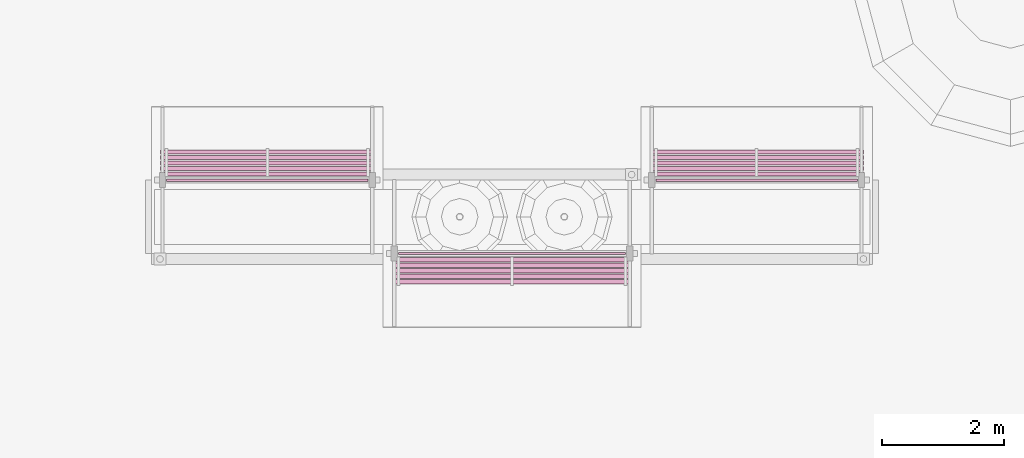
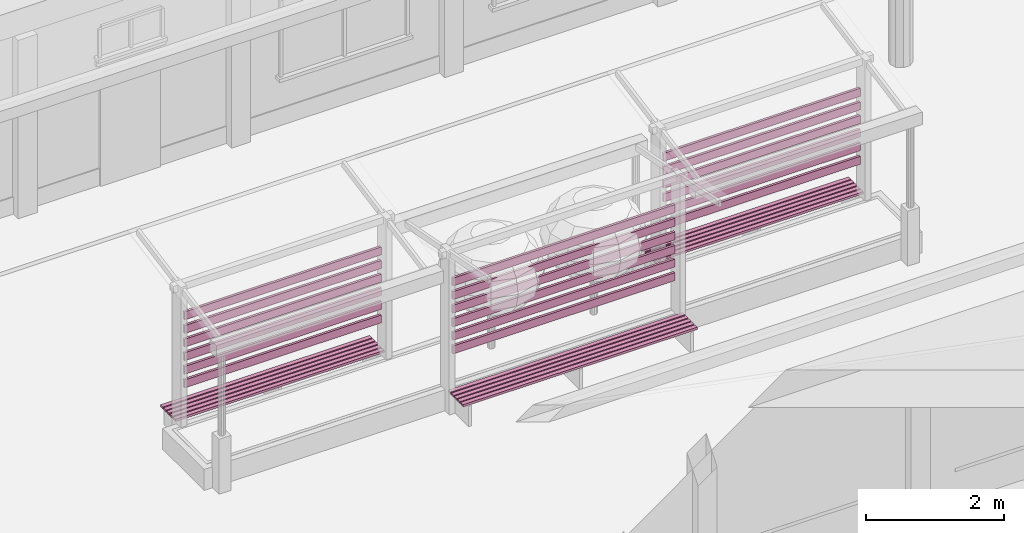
# One storey, part 148 of 177: 33 furnishings.
"""IFC4 building model written with IfcOpenShell, lengths in metres."""

import ifcopenshell
import ifcopenshell.guid

model = None  # the IFC model being written
_history = None  # IfcOwnerHistory: only IFC2X3 demands one
_inside = {}  # id of a spatial element -> (the spatial element, [elements in it])
_under = {}  # id of a project, library or spatial element -> (it, [spatial elements below it])
_declared = {}  # id of a project -> (the project, [libraries it declares])
_typed = {}  # id of a type object -> (the type object, [elements of that type])
_made_of = {}  # id of a material, layer set ... -> (it, [elements and type objects made of it])


def new_model(schema):
    """Start an empty IFC model of exactly this schema.

    Asked for "IFC4X3", IfcOpenShell would pick the latest addendum, in which some entities
    have other attributes; the version numbers below select the first issue.
    IFC2X3 requires an IfcOwnerHistory on every rooted entity: one is made here for all.
    """
    global model, _history
    if schema == "IFC4X3":
        model = ifcopenshell.file(schema_version=(4, 3, 0, 0))
    else:
        model = ifcopenshell.file(schema=schema)
    _inside.clear()
    _under.clear()
    _declared.clear()
    _typed.clear()
    _made_of.clear()
    _history = None
    if model.schema == "IFC2X3":
        org = make("IfcOrganization", Name="unknown")
        user = make(
            "IfcPersonAndOrganization",
            ThePerson=make("IfcPerson", FamilyName="unknown"),
            TheOrganization=org,
        )
        app = make(
            "IfcApplication",
            ApplicationDeveloper=org,
            Version="unknown",
            ApplicationFullName="unknown",
            ApplicationIdentifier="unknown",
        )
        _history = make(
            "IfcOwnerHistory",
            OwningUser=user,
            OwningApplication=app,
            ChangeAction="ADDED",
            CreationDate=0,
        )
    return model


def make(cls, **values):
    """One entity of the class cls with the attributes given. An attribute that is None is left unset."""
    return model.create_entity(
        cls, **{name: value for name, value in values.items() if value is not None}
    )


def rooted(cls, **values):
    """An entity with a GlobalId (a new one), such as an element, a storey or a relation."""
    return make(cls, GlobalId=ifcopenshell.guid.new(), OwnerHistory=_history, **values)


def si_unit(unit_type, name, prefix=None):
    """IfcSIUnit, for example si_unit("LENGTHUNIT", "METRE", prefix="MILLI")."""
    return make("IfcSIUnit", UnitType=unit_type, Prefix=prefix, Name=name)


def assignment(units):
    """IfcUnitAssignment: the units of a project."""
    return None if units is None else make("IfcUnitAssignment", Units=units)


def point(xyz):
    """IfcCartesianPoint."""
    return None if xyz is None else make("IfcCartesianPoint", Coordinates=xyz)


def direction(xyz):
    """IfcDirection."""
    return None if xyz is None else make("IfcDirection", DirectionRatios=xyz)


def frame(location, z_axis=None, x_axis=None):
    """IfcAxis2Placement3D, a coordinate frame: its origin and axes. An axis left out is left unset."""
    return make(
        "IfcAxis2Placement3D",
        Location=point(location),
        Axis=direction(z_axis),
        RefDirection=direction(x_axis),
    )


def origin():
    """The frame at (0, 0, 0) with its axes left unset."""
    return frame((0.0, 0.0, 0.0))


def origin_with_axes():
    """The frame at (0, 0, 0) with the z axis (0, 0, 1) and the x axis (1, 0, 0) written out."""
    return frame((0.0, 0.0, 0.0), z_axis=(0.0, 0.0, 1.0), x_axis=(1.0, 0.0, 0.0))


def place(relative_to, where):
    """IfcLocalPlacement: puts the frame where relative to a parent placement (None: the world)."""
    return make(
        "IfcLocalPlacement", PlacementRelTo=relative_to, RelativePlacement=where
    )


def context(
    kind, dimensions, precision=None, world=None, true_north=None, identifier=None
):
    """IfcGeometricRepresentationContext, for example the 3D "Model" context."""
    return make(
        "IfcGeometricRepresentationContext",
        ContextIdentifier=identifier,
        ContextType=kind,
        CoordinateSpaceDimension=dimensions,
        Precision=precision,
        WorldCoordinateSystem=world,
        TrueNorth=true_north,
    )


def subcontext(parent, identifier, kind, view, scale=None):
    """IfcGeometricRepresentationSubContext, for example "Body" below "Model"."""
    return make(
        "IfcGeometricRepresentationSubContext",
        ContextIdentifier=identifier,
        ContextType=kind,
        ParentContext=parent,
        TargetScale=scale,
        TargetView=view,
    )


def project(units=None, contexts=None):
    """IfcProject with its units and contexts."""
    return rooted(
        "IfcProject",
        Name="project",
        RepresentationContexts=contexts,
        UnitsInContext=assignment(units),
    )


def spatial(cls, under=None, at=None, **own):
    """A site, building, storey or space (cls), placed at a placement, below another one or the project."""
    s = rooted(cls, ObjectPlacement=at, **own)
    if under is not None:
        _under.setdefault(under.id(), (under, []))[1].append(s)
    return s


def point_list(points):
    """IfcCartesianPointList2D or 3D."""
    cls = (
        "IfcCartesianPointList2D" if len(points[0]) == 2 else "IfcCartesianPointList3D"
    )
    return make(cls, CoordList=points)


def triangles(points, corners, closed=None, point_numbers=None):
    """IfcTriangulatedFaceSet: each triangle names its three corners, points numbered from 1."""
    return make(
        "IfcTriangulatedFaceSet",
        Coordinates=point_list(points),
        Closed=closed,
        CoordIndex=corners,
        PnIndex=point_numbers,
    )


def shape(context_of_items, identifier, shape_type, items):
    """IfcShapeRepresentation: the items that make up one representation, for example the "Body"."""
    return make(
        "IfcShapeRepresentation",
        ContextOfItems=context_of_items,
        RepresentationIdentifier=identifier,
        RepresentationType=shape_type,
        Items=items,
    )


def made_of(thing, what):
    """Note that an element or type object is made of a material, layer set ...; save() writes the relation."""
    if what is not None:
        _made_of.setdefault(what.id(), (what, []))[1].append(thing)
    return thing


def element(
    cls,
    number,
    at=None,
    inside=None,
    cuts=None,
    type_object=None,
    material=None,
    context=None,
    identifier="Body",
    shape_type=None,
    held_by="IfcProductDefinitionShape",
    body=None,
    shapes=None,
    **own,
):
    """One element of the class cls, such as IfcWall. Its Tag is "e" and its number.

    at: its placement. inside: the storey or other place that contains it. cuts: it is an
    opening in that element (IfcRelVoidsElement). A single representation is given by context,
    identifier, shape_type and body (its items); several are given by shapes. held_by: the class
    of the entity that holds the representations. save() writes the other relations.
    """
    e = rooted(cls, Tag="e%d" % number, ObjectPlacement=at, **own)
    if body is not None:
        shapes = [shape(context, identifier, shape_type, body)]
    if shapes is not None:
        e.Representation = make(held_by, Representations=shapes)
    if inside is not None:
        _inside.setdefault(inside.id(), (inside, []))[1].append(e)
    if cuts is not None:
        rooted(
            "IfcRelVoidsElement", RelatingBuildingElement=cuts, RelatedOpeningElement=e
        )
    if type_object is not None:
        _typed.setdefault(type_object.id(), (type_object, []))[1].append(e)
    return made_of(e, material)


def aggregate(whole, parts):
    """IfcRelAggregates: a whole, such as a stair, and the parts it consists of."""
    return rooted("IfcRelAggregates", RelatingObject=whole, RelatedObjects=parts)


def save(model, path):
    """Write the relations noted so far, then the file.

    IfcRelAggregates (storeys below a building ...), IfcRelContainedInSpatialStructure (elements
    in a storey), IfcRelDefinesByType, IfcRelAssociatesMaterial and IfcRelDeclares: one each for
    every whole, place, type object, material and project.
    """
    for whole, parts in _under.values():
        aggregate(whole, parts)
    for where, things in _inside.values():
        rooted(
            "IfcRelContainedInSpatialStructure",
            RelatedElements=things,
            RelatingStructure=where,
        )
    for kind, things in _typed.values():
        rooted("IfcRelDefinesByType", RelatedObjects=things, RelatingType=kind)
    for what, things in _made_of.values():
        rooted("IfcRelAssociatesMaterial", RelatedObjects=things, RelatingMaterial=what)
    for by, libraries in _declared.values():
        rooted("IfcRelDeclares", RelatingContext=by, RelatedDefinitions=libraries)
    model.write(path)


model = new_model("IFC4")

# Units and contexts
model_context = context("Model", 3, precision=1e-05, world=origin_with_axes())
body_context = subcontext(model_context, "Body", "Model", "MODEL_VIEW")
ifc_project = project(units=[si_unit("LENGTHUNIT", "METRE"), si_unit("AREAUNIT", "SQUARE_METRE"), si_unit("VOLUMEUNIT", "CUBIC_METRE"), si_unit("PLANEANGLEUNIT", "RADIAN")], contexts=[model_context])

# Site, building, storey
site_placement = place(None, origin_with_axes())
site = spatial("IfcSite", under=ifc_project, at=site_placement, Name="Predio Los Mangos - Morales, San Martín", CompositionType="ELEMENT")
building_placement = place(site_placement, origin())
building = spatial("IfcBuilding", under=site, at=building_placement, Name="Hogar de Refugio Temporal", CompositionType="ELEMENT")
storey_placement = place(building_placement, origin())
storey = spatial("IfcBuildingStorey", under=building, at=storey_placement, Name="NIVEL 1 (NPT +0.00)", CompositionType="ELEMENT", Elevation=0.0)

# Furnishings
furnishing_1_placement = place(storey_placement, origin())
element("IfcFurnishingElement", 1, at=furnishing_1_placement, inside=storey, Name="oc01_celosia", ObjectType="Mobiliario exterior / juegos", context=body_context, shape_type="Tessellation", body=[
    triangles([(45.995, 110.87, 1.05), (42.705, 110.87, 1.05), (42.705, 110.83, 1.05), (45.995, 110.83, 1.05), (45.995, 110.87, 1.19), (42.705, 110.87, 1.19), (42.705, 110.83, 1.19), (45.995, 110.83, 1.19)], [[1, 4, 3], [1, 3, 2], [5, 6, 7], [5, 7, 8], [1, 2, 6], [1, 6, 5], [2, 3, 7], [2, 7, 6], [3, 4, 8], [3, 8, 7], [4, 1, 5], [4, 5, 8]]),
])
furnishing_2_placement = place(storey_placement, origin())
element("IfcFurnishingElement", 2, at=furnishing_2_placement, inside=storey, Name="oc01_celosia", ObjectType="Mobiliario exterior / juegos", context=body_context, shape_type="Tessellation", body=[
    triangles([(45.995, 110.87, 1.29), (42.705, 110.87, 1.29), (42.705, 110.83, 1.29), (45.995, 110.83, 1.29), (45.995, 110.87, 1.43), (42.705, 110.87, 1.43), (42.705, 110.83, 1.43), (45.995, 110.83, 1.43)], [[1, 4, 3], [1, 3, 2], [5, 6, 7], [5, 7, 8], [1, 2, 6], [1, 6, 5], [2, 3, 7], [2, 7, 6], [3, 4, 8], [3, 8, 7], [4, 1, 5], [4, 5, 8]]),
])
furnishing_3_placement = place(storey_placement, origin())
element("IfcFurnishingElement", 3, at=furnishing_3_placement, inside=storey, Name="oc01_celosia", ObjectType="Mobiliario exterior / juegos", context=body_context, shape_type="Tessellation", body=[
    triangles([(45.995, 110.87, 1.53), (42.705, 110.87, 1.53), (42.705, 110.83, 1.53), (45.995, 110.83, 1.53), (45.995, 110.87, 1.67), (42.705, 110.87, 1.67), (42.705, 110.83, 1.67), (45.995, 110.83, 1.67)], [[1, 4, 3], [1, 3, 2], [5, 6, 7], [5, 7, 8], [1, 2, 6], [1, 6, 5], [2, 3, 7], [2, 7, 6], [3, 4, 8], [3, 8, 7], [4, 1, 5], [4, 5, 8]]),
])
furnishing_4_placement = place(storey_placement, origin())
element("IfcFurnishingElement", 4, at=furnishing_4_placement, inside=storey, Name="oc01_celosia", ObjectType="Mobiliario exterior / juegos", context=body_context, shape_type="Tessellation", body=[
    triangles([(45.995, 110.87, 1.77), (42.705, 110.87, 1.77), (42.705, 110.83, 1.77), (45.995, 110.83, 1.77), (45.995, 110.87, 1.91), (42.705, 110.87, 1.91), (42.705, 110.83, 1.91), (45.995, 110.83, 1.91)], [[1, 4, 3], [1, 3, 2], [5, 6, 7], [5, 7, 8], [1, 2, 6], [1, 6, 5], [2, 3, 7], [2, 7, 6], [3, 4, 8], [3, 8, 7], [4, 1, 5], [4, 5, 8]]),
])
furnishing_5_placement = place(storey_placement, origin())
element("IfcFurnishingElement", 5, at=furnishing_5_placement, inside=storey, Name="oc01_celosia", ObjectType="Mobiliario exterior / juegos", context=body_context, shape_type="Tessellation", body=[
    triangles([(45.995, 110.87, 2.01), (42.705, 110.87, 2.01), (42.705, 110.83, 2.01), (45.995, 110.83, 2.01), (45.995, 110.87, 2.15), (42.705, 110.87, 2.15), (42.705, 110.83, 2.15), (45.995, 110.83, 2.15)], [[1, 4, 3], [1, 3, 2], [5, 6, 7], [5, 7, 8], [1, 2, 6], [1, 6, 5], [2, 3, 7], [2, 7, 6], [3, 4, 8], [3, 8, 7], [4, 1, 5], [4, 5, 8]]),
])
furnishing_6_placement = place(storey_placement, origin())
element("IfcFurnishingElement", 6, at=furnishing_6_placement, inside=storey, Name="oc01_celosia", ObjectType="Mobiliario exterior / juegos", context=body_context, shape_type="Tessellation", body=[
    triangles([(45.995, 110.87, 2.25), (42.705, 110.87, 2.25), (42.705, 110.83, 2.25), (45.995, 110.83, 2.25), (45.995, 110.87, 2.39), (42.705, 110.87, 2.39), (42.705, 110.83, 2.39), (45.995, 110.83, 2.39)], [[1, 4, 3], [1, 3, 2], [5, 6, 7], [5, 7, 8], [1, 2, 6], [1, 6, 5], [2, 3, 7], [2, 7, 6], [3, 4, 8], [3, 8, 7], [4, 1, 5], [4, 5, 8]]),
])
furnishing_7_placement = place(storey_placement, origin())
element("IfcFurnishingElement", 7, at=furnishing_7_placement, inside=storey, Name="oc01_asiento", ObjectType="Mobiliario exterior / juegos", context=body_context, shape_type="Tessellation", body=[
    triangles([(46.095, 110.985, 0.44), (42.605, 110.985, 0.44), (42.605, 110.915, 0.44), (46.095, 110.915, 0.44), (46.095, 110.985, 0.48), (42.605, 110.985, 0.48), (42.605, 110.915, 0.48), (46.095, 110.915, 0.48)], [[1, 4, 3], [1, 3, 2], [5, 6, 7], [5, 7, 8], [1, 2, 6], [1, 6, 5], [2, 3, 7], [2, 7, 6], [3, 4, 8], [3, 8, 7], [4, 1, 5], [4, 5, 8]]),
])
furnishing_8_placement = place(storey_placement, origin())
element("IfcFurnishingElement", 8, at=furnishing_8_placement, inside=storey, Name="oc01_asiento", ObjectType="Mobiliario exterior / juegos", context=body_context, shape_type="Tessellation", body=[
    triangles([(46.095, 111.075, 0.44), (42.605, 111.075, 0.44), (42.605, 111.005, 0.44), (46.095, 111.005, 0.44), (46.095, 111.075, 0.48), (42.605, 111.075, 0.48), (42.605, 111.005, 0.48), (46.095, 111.005, 0.48)], [[1, 4, 3], [1, 3, 2], [5, 6, 7], [5, 7, 8], [1, 2, 6], [1, 6, 5], [2, 3, 7], [2, 7, 6], [3, 4, 8], [3, 8, 7], [4, 1, 5], [4, 5, 8]]),
])
furnishing_9_placement = place(storey_placement, origin())
element("IfcFurnishingElement", 9, at=furnishing_9_placement, inside=storey, Name="oc01_asiento", ObjectType="Mobiliario exterior / juegos", context=body_context, shape_type="Tessellation", body=[
    triangles([(46.095, 111.165, 0.44), (42.605, 111.165, 0.44), (42.605, 111.095, 0.44), (46.095, 111.095, 0.44), (46.095, 111.165, 0.48), (42.605, 111.165, 0.48), (42.605, 111.095, 0.48), (46.095, 111.095, 0.48)], [[1, 4, 3], [1, 3, 2], [5, 6, 7], [5, 7, 8], [1, 2, 6], [1, 6, 5], [2, 3, 7], [2, 7, 6], [3, 4, 8], [3, 8, 7], [4, 1, 5], [4, 5, 8]]),
])
furnishing_10_placement = place(storey_placement, origin())
element("IfcFurnishingElement", 10, at=furnishing_10_placement, inside=storey, Name="oc01_asiento", ObjectType="Mobiliario exterior / juegos", context=body_context, shape_type="Tessellation", body=[
    triangles([(46.095, 111.255, 0.44), (42.605, 111.255, 0.44), (42.605, 111.185, 0.44), (46.095, 111.185, 0.44), (46.095, 111.255, 0.48), (42.605, 111.255, 0.48), (42.605, 111.185, 0.48), (46.095, 111.185, 0.48)], [[1, 4, 3], [1, 3, 2], [5, 6, 7], [5, 7, 8], [1, 2, 6], [1, 6, 5], [2, 3, 7], [2, 7, 6], [3, 4, 8], [3, 8, 7], [4, 1, 5], [4, 5, 8]]),
])
furnishing_11_placement = place(storey_placement, origin())
element("IfcFurnishingElement", 11, at=furnishing_11_placement, inside=storey, Name="oc01_asiento", ObjectType="Mobiliario exterior / juegos", context=body_context, shape_type="Tessellation", body=[
    triangles([(46.095, 111.345, 0.44), (42.605, 111.345, 0.44), (42.605, 111.275, 0.44), (46.095, 111.275, 0.44), (46.095, 111.345, 0.48), (42.605, 111.345, 0.48), (42.605, 111.275, 0.48), (46.095, 111.275, 0.48)], [[1, 4, 3], [1, 3, 2], [5, 6, 7], [5, 7, 8], [1, 2, 6], [1, 6, 5], [2, 3, 7], [2, 7, 6], [3, 4, 8], [3, 8, 7], [4, 1, 5], [4, 5, 8]]),
])
furnishing_12_placement = place(storey_placement, origin())
element("IfcFurnishingElement", 12, at=furnishing_12_placement, inside=storey, Name="oc01_celosia", ObjectType="Mobiliario exterior / juegos", context=body_context, shape_type="Tessellation", body=[
    triangles([(42.205, 109.67, 1.05), (38.495, 109.67, 1.05), (38.495, 109.63, 1.05), (42.205, 109.63, 1.05), (42.205, 109.67, 1.19), (38.495, 109.67, 1.19), (38.495, 109.63, 1.19), (42.205, 109.63, 1.19)], [[1, 4, 3], [1, 3, 2], [5, 6, 7], [5, 7, 8], [1, 2, 6], [1, 6, 5], [2, 3, 7], [2, 7, 6], [3, 4, 8], [3, 8, 7], [4, 1, 5], [4, 5, 8]]),
])
furnishing_13_placement = place(storey_placement, origin())
element("IfcFurnishingElement", 13, at=furnishing_13_placement, inside=storey, Name="oc01_celosia", ObjectType="Mobiliario exterior / juegos", context=body_context, shape_type="Tessellation", body=[
    triangles([(42.205, 109.67, 1.29), (38.495, 109.67, 1.29), (38.495, 109.63, 1.29), (42.205, 109.63, 1.29), (42.205, 109.67, 1.43), (38.495, 109.67, 1.43), (38.495, 109.63, 1.43), (42.205, 109.63, 1.43)], [[1, 4, 3], [1, 3, 2], [5, 6, 7], [5, 7, 8], [1, 2, 6], [1, 6, 5], [2, 3, 7], [2, 7, 6], [3, 4, 8], [3, 8, 7], [4, 1, 5], [4, 5, 8]]),
])
furnishing_14_placement = place(storey_placement, origin())
element("IfcFurnishingElement", 14, at=furnishing_14_placement, inside=storey, Name="oc01_celosia", ObjectType="Mobiliario exterior / juegos", context=body_context, shape_type="Tessellation", body=[
    triangles([(42.205, 109.67, 1.53), (38.495, 109.67, 1.53), (38.495, 109.63, 1.53), (42.205, 109.63, 1.53), (42.205, 109.67, 1.67), (38.495, 109.67, 1.67), (38.495, 109.63, 1.67), (42.205, 109.63, 1.67)], [[1, 4, 3], [1, 3, 2], [5, 6, 7], [5, 7, 8], [1, 2, 6], [1, 6, 5], [2, 3, 7], [2, 7, 6], [3, 4, 8], [3, 8, 7], [4, 1, 5], [4, 5, 8]]),
])
furnishing_15_placement = place(storey_placement, origin())
element("IfcFurnishingElement", 15, at=furnishing_15_placement, inside=storey, Name="oc01_celosia", ObjectType="Mobiliario exterior / juegos", context=body_context, shape_type="Tessellation", body=[
    triangles([(42.205, 109.67, 1.77), (38.495, 109.67, 1.77), (38.495, 109.63, 1.77), (42.205, 109.63, 1.77), (42.205, 109.67, 1.91), (38.495, 109.67, 1.91), (38.495, 109.63, 1.91), (42.205, 109.63, 1.91)], [[1, 4, 3], [1, 3, 2], [5, 6, 7], [5, 7, 8], [1, 2, 6], [1, 6, 5], [2, 3, 7], [2, 7, 6], [3, 4, 8], [3, 8, 7], [4, 1, 5], [4, 5, 8]]),
])
furnishing_16_placement = place(storey_placement, origin())
element("IfcFurnishingElement", 16, at=furnishing_16_placement, inside=storey, Name="oc01_celosia", ObjectType="Mobiliario exterior / juegos", context=body_context, shape_type="Tessellation", body=[
    triangles([(42.205, 109.67, 2.01), (38.495, 109.67, 2.01), (38.495, 109.63, 2.01), (42.205, 109.63, 2.01), (42.205, 109.67, 2.15), (38.495, 109.67, 2.15), (38.495, 109.63, 2.15), (42.205, 109.63, 2.15)], [[1, 4, 3], [1, 3, 2], [5, 6, 7], [5, 7, 8], [1, 2, 6], [1, 6, 5], [2, 3, 7], [2, 7, 6], [3, 4, 8], [3, 8, 7], [4, 1, 5], [4, 5, 8]]),
])
furnishing_17_placement = place(storey_placement, origin())
element("IfcFurnishingElement", 17, at=furnishing_17_placement, inside=storey, Name="oc01_celosia", ObjectType="Mobiliario exterior / juegos", context=body_context, shape_type="Tessellation", body=[
    triangles([(42.205, 109.67, 2.25), (38.495, 109.67, 2.25), (38.495, 109.63, 2.25), (42.205, 109.63, 2.25), (42.205, 109.67, 2.39), (38.495, 109.67, 2.39), (38.495, 109.63, 2.39), (42.205, 109.63, 2.39)], [[1, 4, 3], [1, 3, 2], [5, 6, 7], [5, 7, 8], [1, 2, 6], [1, 6, 5], [2, 3, 7], [2, 7, 6], [3, 4, 8], [3, 8, 7], [4, 1, 5], [4, 5, 8]]),
])
furnishing_18_placement = place(storey_placement, origin())
element("IfcFurnishingElement", 18, at=furnishing_18_placement, inside=storey, Name="oc01_asiento", ObjectType="Mobiliario exterior / juegos", context=body_context, shape_type="Tessellation", body=[
    triangles([(42.305, 109.585, 0.44), (38.395, 109.585, 0.44), (38.395, 109.515, 0.44), (42.305, 109.515, 0.44), (42.305, 109.585, 0.48), (38.395, 109.585, 0.48), (38.395, 109.515, 0.48), (42.305, 109.515, 0.48)], [[1, 4, 3], [1, 3, 2], [5, 6, 7], [5, 7, 8], [1, 2, 6], [1, 6, 5], [2, 3, 7], [2, 7, 6], [3, 4, 8], [3, 8, 7], [4, 1, 5], [4, 5, 8]]),
])
furnishing_19_placement = place(storey_placement, origin())
element("IfcFurnishingElement", 19, at=furnishing_19_placement, inside=storey, Name="oc01_asiento", ObjectType="Mobiliario exterior / juegos", context=body_context, shape_type="Tessellation", body=[
    triangles([(42.305, 109.495, 0.44), (38.395, 109.495, 0.44), (38.395, 109.425, 0.44), (42.305, 109.425, 0.44), (42.305, 109.495, 0.48), (38.395, 109.495, 0.48), (38.395, 109.425, 0.48), (42.305, 109.425, 0.48)], [[1, 4, 3], [1, 3, 2], [5, 6, 7], [5, 7, 8], [1, 2, 6], [1, 6, 5], [2, 3, 7], [2, 7, 6], [3, 4, 8], [3, 8, 7], [4, 1, 5], [4, 5, 8]]),
])
furnishing_20_placement = place(storey_placement, origin())
element("IfcFurnishingElement", 20, at=furnishing_20_placement, inside=storey, Name="oc01_asiento", ObjectType="Mobiliario exterior / juegos", context=body_context, shape_type="Tessellation", body=[
    triangles([(42.305, 109.405, 0.44), (38.395, 109.405, 0.44), (38.395, 109.335, 0.44), (42.305, 109.335, 0.44), (42.305, 109.405, 0.48), (38.395, 109.405, 0.48), (38.395, 109.335, 0.48), (42.305, 109.335, 0.48)], [[1, 4, 3], [1, 3, 2], [5, 6, 7], [5, 7, 8], [1, 2, 6], [1, 6, 5], [2, 3, 7], [2, 7, 6], [3, 4, 8], [3, 8, 7], [4, 1, 5], [4, 5, 8]]),
])
furnishing_21_placement = place(storey_placement, origin())
element("IfcFurnishingElement", 21, at=furnishing_21_placement, inside=storey, Name="oc01_asiento", ObjectType="Mobiliario exterior / juegos", context=body_context, shape_type="Tessellation", body=[
    triangles([(42.305, 109.315, 0.44), (38.395, 109.315, 0.44), (38.395, 109.245, 0.44), (42.305, 109.245, 0.44), (42.305, 109.315, 0.48), (38.395, 109.315, 0.48), (38.395, 109.245, 0.48), (42.305, 109.245, 0.48)], [[1, 4, 3], [1, 3, 2], [5, 6, 7], [5, 7, 8], [1, 2, 6], [1, 6, 5], [2, 3, 7], [2, 7, 6], [3, 4, 8], [3, 8, 7], [4, 1, 5], [4, 5, 8]]),
])
furnishing_22_placement = place(storey_placement, origin())
element("IfcFurnishingElement", 22, at=furnishing_22_placement, inside=storey, Name="oc01_asiento", ObjectType="Mobiliario exterior / juegos", context=body_context, shape_type="Tessellation", body=[
    triangles([(42.305, 109.225, 0.44), (38.395, 109.225, 0.44), (38.395, 109.155, 0.44), (42.305, 109.155, 0.44), (42.305, 109.225, 0.48), (38.395, 109.225, 0.48), (38.395, 109.155, 0.48), (42.305, 109.155, 0.48)], [[1, 4, 3], [1, 3, 2], [5, 6, 7], [5, 7, 8], [1, 2, 6], [1, 6, 5], [2, 3, 7], [2, 7, 6], [3, 4, 8], [3, 8, 7], [4, 1, 5], [4, 5, 8]]),
])
furnishing_23_placement = place(storey_placement, origin())
element("IfcFurnishingElement", 23, at=furnishing_23_placement, inside=storey, Name="oc01_celosia", ObjectType="Mobiliario exterior / juegos", context=body_context, shape_type="Tessellation", body=[
    triangles([(37.995, 110.87, 1.05), (34.705, 110.87, 1.05), (34.705, 110.83, 1.05), (37.995, 110.83, 1.05), (37.995, 110.87, 1.19), (34.705, 110.87, 1.19), (34.705, 110.83, 1.19), (37.995, 110.83, 1.19)], [[1, 4, 3], [1, 3, 2], [5, 6, 7], [5, 7, 8], [1, 2, 6], [1, 6, 5], [2, 3, 7], [2, 7, 6], [3, 4, 8], [3, 8, 7], [4, 1, 5], [4, 5, 8]]),
])
furnishing_24_placement = place(storey_placement, origin())
element("IfcFurnishingElement", 24, at=furnishing_24_placement, inside=storey, Name="oc01_celosia", ObjectType="Mobiliario exterior / juegos", context=body_context, shape_type="Tessellation", body=[
    triangles([(37.995, 110.87, 1.29), (34.705, 110.87, 1.29), (34.705, 110.83, 1.29), (37.995, 110.83, 1.29), (37.995, 110.87, 1.43), (34.705, 110.87, 1.43), (34.705, 110.83, 1.43), (37.995, 110.83, 1.43)], [[1, 4, 3], [1, 3, 2], [5, 6, 7], [5, 7, 8], [1, 2, 6], [1, 6, 5], [2, 3, 7], [2, 7, 6], [3, 4, 8], [3, 8, 7], [4, 1, 5], [4, 5, 8]]),
])
furnishing_25_placement = place(storey_placement, origin())
element("IfcFurnishingElement", 25, at=furnishing_25_placement, inside=storey, Name="oc01_celosia", ObjectType="Mobiliario exterior / juegos", context=body_context, shape_type="Tessellation", body=[
    triangles([(37.995, 110.87, 1.53), (34.705, 110.87, 1.53), (34.705, 110.83, 1.53), (37.995, 110.83, 1.53), (37.995, 110.87, 1.67), (34.705, 110.87, 1.67), (34.705, 110.83, 1.67), (37.995, 110.83, 1.67)], [[1, 4, 3], [1, 3, 2], [5, 6, 7], [5, 7, 8], [1, 2, 6], [1, 6, 5], [2, 3, 7], [2, 7, 6], [3, 4, 8], [3, 8, 7], [4, 1, 5], [4, 5, 8]]),
])
furnishing_26_placement = place(storey_placement, origin())
element("IfcFurnishingElement", 26, at=furnishing_26_placement, inside=storey, Name="oc01_celosia", ObjectType="Mobiliario exterior / juegos", context=body_context, shape_type="Tessellation", body=[
    triangles([(37.995, 110.87, 1.77), (34.705, 110.87, 1.77), (34.705, 110.83, 1.77), (37.995, 110.83, 1.77), (37.995, 110.87, 1.91), (34.705, 110.87, 1.91), (34.705, 110.83, 1.91), (37.995, 110.83, 1.91)], [[1, 4, 3], [1, 3, 2], [5, 6, 7], [5, 7, 8], [1, 2, 6], [1, 6, 5], [2, 3, 7], [2, 7, 6], [3, 4, 8], [3, 8, 7], [4, 1, 5], [4, 5, 8]]),
])
furnishing_27_placement = place(storey_placement, origin())
element("IfcFurnishingElement", 27, at=furnishing_27_placement, inside=storey, Name="oc01_celosia", ObjectType="Mobiliario exterior / juegos", context=body_context, shape_type="Tessellation", body=[
    triangles([(37.995, 110.87, 2.01), (34.705, 110.87, 2.01), (34.705, 110.83, 2.01), (37.995, 110.83, 2.01), (37.995, 110.87, 2.15), (34.705, 110.87, 2.15), (34.705, 110.83, 2.15), (37.995, 110.83, 2.15)], [[1, 4, 3], [1, 3, 2], [5, 6, 7], [5, 7, 8], [1, 2, 6], [1, 6, 5], [2, 3, 7], [2, 7, 6], [3, 4, 8], [3, 8, 7], [4, 1, 5], [4, 5, 8]]),
])
furnishing_28_placement = place(storey_placement, origin())
element("IfcFurnishingElement", 28, at=furnishing_28_placement, inside=storey, Name="oc01_celosia", ObjectType="Mobiliario exterior / juegos", context=body_context, shape_type="Tessellation", body=[
    triangles([(37.995, 110.87, 2.25), (34.705, 110.87, 2.25), (34.705, 110.83, 2.25), (37.995, 110.83, 2.25), (37.995, 110.87, 2.39), (34.705, 110.87, 2.39), (34.705, 110.83, 2.39), (37.995, 110.83, 2.39)], [[1, 4, 3], [1, 3, 2], [5, 6, 7], [5, 7, 8], [1, 2, 6], [1, 6, 5], [2, 3, 7], [2, 7, 6], [3, 4, 8], [3, 8, 7], [4, 1, 5], [4, 5, 8]]),
])
furnishing_29_placement = place(storey_placement, origin())
element("IfcFurnishingElement", 29, at=furnishing_29_placement, inside=storey, Name="oc01_asiento", ObjectType="Mobiliario exterior / juegos", context=body_context, shape_type="Tessellation", body=[
    triangles([(38.095, 110.985, 0.44), (34.605, 110.985, 0.44), (34.605, 110.915, 0.44), (38.095, 110.915, 0.44), (38.095, 110.985, 0.48), (34.605, 110.985, 0.48), (34.605, 110.915, 0.48), (38.095, 110.915, 0.48)], [[1, 4, 3], [1, 3, 2], [5, 6, 7], [5, 7, 8], [1, 2, 6], [1, 6, 5], [2, 3, 7], [2, 7, 6], [3, 4, 8], [3, 8, 7], [4, 1, 5], [4, 5, 8]]),
])
furnishing_30_placement = place(storey_placement, origin())
element("IfcFurnishingElement", 30, at=furnishing_30_placement, inside=storey, Name="oc01_asiento", ObjectType="Mobiliario exterior / juegos", context=body_context, shape_type="Tessellation", body=[
    triangles([(38.095, 111.075, 0.44), (34.605, 111.075, 0.44), (34.605, 111.005, 0.44), (38.095, 111.005, 0.44), (38.095, 111.075, 0.48), (34.605, 111.075, 0.48), (34.605, 111.005, 0.48), (38.095, 111.005, 0.48)], [[1, 4, 3], [1, 3, 2], [5, 6, 7], [5, 7, 8], [1, 2, 6], [1, 6, 5], [2, 3, 7], [2, 7, 6], [3, 4, 8], [3, 8, 7], [4, 1, 5], [4, 5, 8]]),
])
furnishing_31_placement = place(storey_placement, origin())
element("IfcFurnishingElement", 31, at=furnishing_31_placement, inside=storey, Name="oc01_asiento", ObjectType="Mobiliario exterior / juegos", context=body_context, shape_type="Tessellation", body=[
    triangles([(38.095, 111.165, 0.44), (34.605, 111.165, 0.44), (34.605, 111.095, 0.44), (38.095, 111.095, 0.44), (38.095, 111.165, 0.48), (34.605, 111.165, 0.48), (34.605, 111.095, 0.48), (38.095, 111.095, 0.48)], [[1, 4, 3], [1, 3, 2], [5, 6, 7], [5, 7, 8], [1, 2, 6], [1, 6, 5], [2, 3, 7], [2, 7, 6], [3, 4, 8], [3, 8, 7], [4, 1, 5], [4, 5, 8]]),
])
furnishing_32_placement = place(storey_placement, origin())
element("IfcFurnishingElement", 32, at=furnishing_32_placement, inside=storey, Name="oc01_asiento", ObjectType="Mobiliario exterior / juegos", context=body_context, shape_type="Tessellation", body=[
    triangles([(38.095, 111.255, 0.44), (34.605, 111.255, 0.44), (34.605, 111.185, 0.44), (38.095, 111.185, 0.44), (38.095, 111.255, 0.48), (34.605, 111.255, 0.48), (34.605, 111.185, 0.48), (38.095, 111.185, 0.48)], [[1, 4, 3], [1, 3, 2], [5, 6, 7], [5, 7, 8], [1, 2, 6], [1, 6, 5], [2, 3, 7], [2, 7, 6], [3, 4, 8], [3, 8, 7], [4, 1, 5], [4, 5, 8]]),
])
furnishing_33_placement = place(storey_placement, origin())
element("IfcFurnishingElement", 33, at=furnishing_33_placement, inside=storey, Name="oc01_asiento", ObjectType="Mobiliario exterior / juegos", context=body_context, shape_type="Tessellation", body=[
    triangles([(38.095, 111.345, 0.44), (34.605, 111.345, 0.44), (34.605, 111.275, 0.44), (38.095, 111.275, 0.44), (38.095, 111.345, 0.48), (34.605, 111.345, 0.48), (34.605, 111.275, 0.48), (38.095, 111.275, 0.48)], [[1, 4, 3], [1, 3, 2], [5, 6, 7], [5, 7, 8], [1, 2, 6], [1, 6, 5], [2, 3, 7], [2, 7, 6], [3, 4, 8], [3, 8, 7], [4, 1, 5], [4, 5, 8]]),
])

save(model, "model.ifc")
